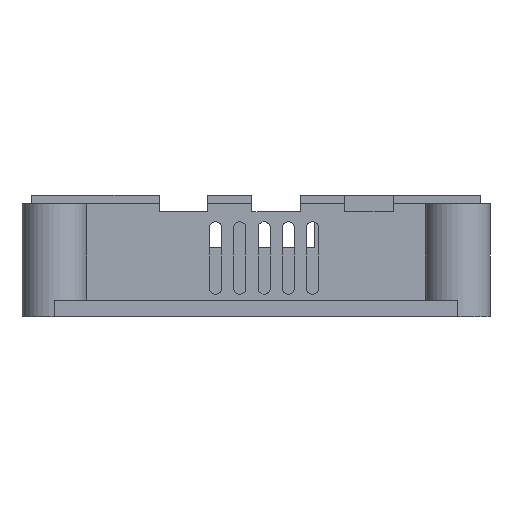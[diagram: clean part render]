
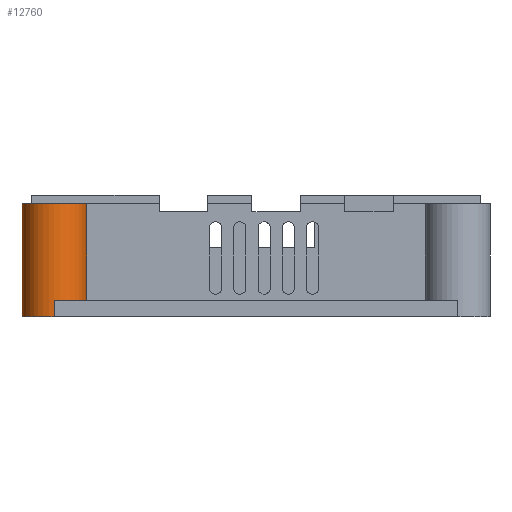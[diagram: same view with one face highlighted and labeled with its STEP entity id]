
A CAD part, left-side view. The second image highlights one B-rep face of the part: STEP entity #12760.
In plain terms, the highlighted cylindrical face has radius 4 mm (diameter 8 mm), a partial arc.
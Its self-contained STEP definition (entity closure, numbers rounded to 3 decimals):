
#271=CYLINDRICAL_SURFACE('',#13389,4.);
#843=CIRCLE('',#13164,4.);
#890=CIRCLE('',#13221,4.);
#922=CIRCLE('',#13387,4.);
#1581=FACE_OUTER_BOUND('',#2361,.T.);
#2361=EDGE_LOOP('',(#11629,#11630,#11631,#11632,#11633,#11634));
#3436=LINE('',#21450,#4739);
#3675=LINE('',#22063,#4978);
#3683=LINE('',#22093,#4986);
#4739=VECTOR('',#15254,10.);
#4978=VECTOR('',#15887,10.);
#4986=VECTOR('',#15923,10.);
#6017=VERTEX_POINT('',#21428);
#6018=VERTEX_POINT('',#21430);
#6026=VERTEX_POINT('',#21449);
#6121=VERTEX_POINT('',#21657);
#6203=VERTEX_POINT('',#22061);
#6211=VERTEX_POINT('',#22091);
#7707=EDGE_CURVE('',#6018,#6017,#843,.T.);
#7717=EDGE_CURVE('',#6026,#6018,#3436,.T.);
#7821=EDGE_CURVE('',#6026,#6121,#890,.T.);
#8022=EDGE_CURVE('',#6017,#6203,#3675,.T.);
#8035=EDGE_CURVE('',#6211,#6121,#3683,.T.);
#8040=EDGE_CURVE('',#6211,#6203,#922,.T.);
#11629=ORIENTED_EDGE('',*,*,#8035,.T.);
#11630=ORIENTED_EDGE('',*,*,#7821,.F.);
#11631=ORIENTED_EDGE('',*,*,#7717,.T.);
#11632=ORIENTED_EDGE('',*,*,#7707,.T.);
#11633=ORIENTED_EDGE('',*,*,#8022,.T.);
#11634=ORIENTED_EDGE('',*,*,#8040,.F.);
#12760=ADVANCED_FACE('',(#1581),#271,.T.);
#13164=AXIS2_PLACEMENT_3D('',#21431,#15236,#15237);
#13221=AXIS2_PLACEMENT_3D('',#21658,#15417,#15418);
#13387=AXIS2_PLACEMENT_3D('',#22102,#15936,#15937);
#13389=AXIS2_PLACEMENT_3D('',#22104,#15940,#15941);
#15236=DIRECTION('center_axis',(0.,0.,1.));
#15237=DIRECTION('ref_axis',(-0.707,0.707,0.));
#15254=DIRECTION('',(0.,0.,-1.));
#15417=DIRECTION('center_axis',(0.,0.,1.));
#15418=DIRECTION('ref_axis',(-1.,0.,0.));
#15887=DIRECTION('',(0.,0.,1.));
#15923=DIRECTION('',(0.,0.,1.));
#15936=DIRECTION('center_axis',(0.,0.,-1.));
#15937=DIRECTION('ref_axis',(-1.,0.,0.));
#15940=DIRECTION('center_axis',(0.,0.,1.));
#15941=DIRECTION('ref_axis',(-1.,0.,0.));
#21428=CARTESIAN_POINT('',(-60.,25.,0.));
#21430=CARTESIAN_POINT('',(-56.,29.,0.));
#21431=CARTESIAN_POINT('Origin',(-56.,25.,0.));
#21449=CARTESIAN_POINT('',(-56.,29.,14.));
#21450=CARTESIAN_POINT('',(-56.,29.,0.));
#21657=CARTESIAN_POINT('',(-56.,21.,14.));
#21658=CARTESIAN_POINT('Origin',(-56.,25.,14.));
#22061=CARTESIAN_POINT('',(-60.,25.,2.));
#22063=CARTESIAN_POINT('',(-60.,25.,0.));
#22091=CARTESIAN_POINT('',(-56.,21.,2.));
#22093=CARTESIAN_POINT('',(-56.,21.,2.));
#22102=CARTESIAN_POINT('Origin',(-56.,25.,2.));
#22104=CARTESIAN_POINT('Origin',(-56.,25.,2.));
